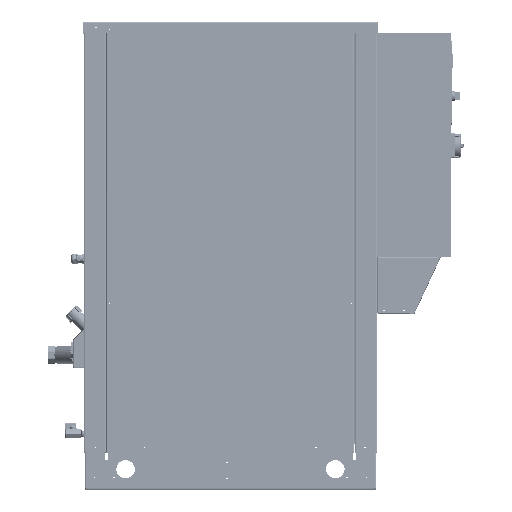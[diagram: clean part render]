
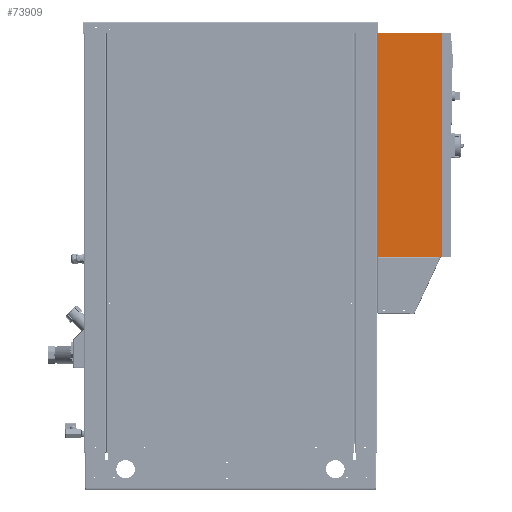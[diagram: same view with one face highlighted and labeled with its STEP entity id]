
A CAD part, top view. The second image highlights one B-rep face of the part: STEP entity #73909.
In plain terms, the highlighted planar face has unit normal (0, 0, 1) as drawn and (-1, 0, 0) by its records, which use the part's own axes.
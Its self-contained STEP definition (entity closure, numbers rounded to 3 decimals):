
#3601 = CARTESIAN_POINT ( 'NONE',  ( -200., 300., 87.5 ) ) ;
#3888 = DIRECTION ( 'NONE',  ( 1., 0., 0. ) ) ;
#20842 = VECTOR ( 'NONE', #196036, 1000. ) ;
#24541 = CARTESIAN_POINT ( 'NONE',  ( -200., 300., -87.5 ) ) ;
#26257 = ORIENTED_EDGE ( 'NONE', *, *, #71323, .T. ) ;
#40438 = VERTEX_POINT ( 'NONE', #97719 ) ;
#42751 = LINE ( 'NONE', #211200, #137712 ) ;
#42855 = CARTESIAN_POINT ( 'NONE',  ( -200., -300., 87.5 ) ) ;
#43674 = DIRECTION ( 'NONE',  ( 0., 0., 1. ) ) ;
#55199 = CARTESIAN_POINT ( 'NONE',  ( -200., 300., -87.5 ) ) ;
#69198 = VERTEX_POINT ( 'NONE', #169644 ) ;
#71323 = EDGE_CURVE ( 'NONE', #134663, #227322, #129438, .T. ) ;
#72618 = EDGE_LOOP ( 'NONE', ( #163613, #102795, #264528, #26257 ) ) ;
#73909 = ADVANCED_FACE ( 'NONE', ( #170929 ), #108795, .F. ) ;
#88107 = DIRECTION ( 'NONE',  ( 0., 0., -1. ) ) ;
#97719 = CARTESIAN_POINT ( 'NONE',  ( -200., 300., 87.5 ) ) ;
#102795 = ORIENTED_EDGE ( 'NONE', *, *, #193158, .F. ) ;
#108795 = PLANE ( 'NONE',  #141843 ) ;
#112784 = DIRECTION ( 'NONE',  ( 0., -1., 0. ) ) ;
#129438 = LINE ( 'NONE', #24541, #216544 ) ;
#134663 = VERTEX_POINT ( 'NONE', #55199 ) ;
#135940 = EDGE_CURVE ( 'NONE', #134663, #40438, #148560, .T. ) ;
#137712 = VECTOR ( 'NONE', #150359, 1000. ) ;
#141843 = AXIS2_PLACEMENT_3D ( 'NONE', #193038, #3888, #88107 ) ;
#148560 = LINE ( 'NONE', #3601, #228111 ) ;
#150359 = DIRECTION ( 'NONE',  ( 0., -1., 0. ) ) ;
#163613 = ORIENTED_EDGE ( 'NONE', *, *, #237373, .T. ) ;
#169644 = CARTESIAN_POINT ( 'NONE',  ( -200., -300., 87.5 ) ) ;
#170929 = FACE_OUTER_BOUND ( 'NONE', #72618, .T. ) ;
#193038 = CARTESIAN_POINT ( 'NONE',  ( -200., 300., 87.5 ) ) ;
#193158 = EDGE_CURVE ( 'NONE', #40438, #69198, #42751, .T. ) ;
#196036 = DIRECTION ( 'NONE',  ( 0., 0., 1. ) ) ;
#198419 = CARTESIAN_POINT ( 'NONE',  ( -200., -300., -87.5 ) ) ;
#211200 = CARTESIAN_POINT ( 'NONE',  ( -200., 300., 87.5 ) ) ;
#215357 = LINE ( 'NONE', #42855, #20842 ) ;
#216544 = VECTOR ( 'NONE', #112784, 1000. ) ;
#227322 = VERTEX_POINT ( 'NONE', #198419 ) ;
#228111 = VECTOR ( 'NONE', #43674, 1000. ) ;
#237373 = EDGE_CURVE ( 'NONE', #227322, #69198, #215357, .T. ) ;
#264528 = ORIENTED_EDGE ( 'NONE', *, *, #135940, .F. ) ;
